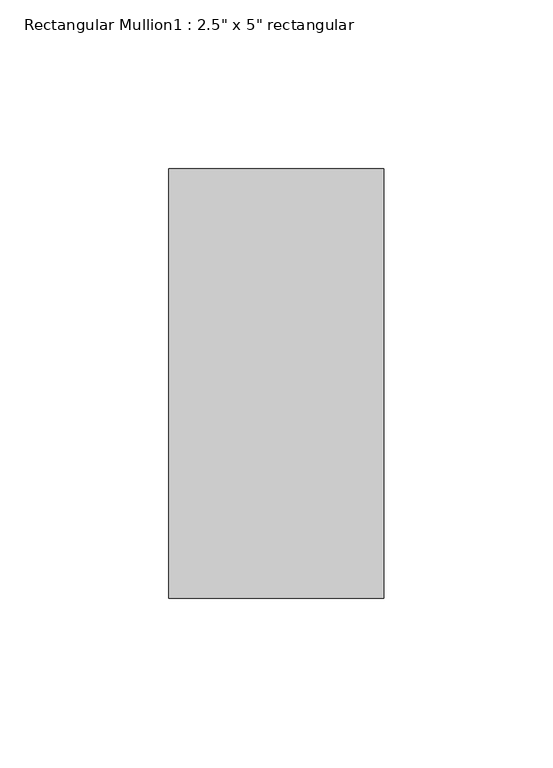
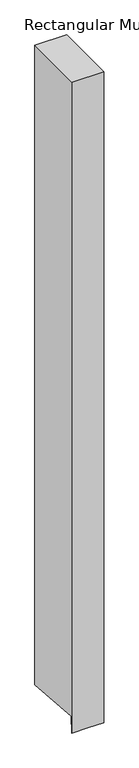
"""IFC4 building model written with IfcOpenShell, lengths in millimetres: member geometry."""

from ifc_helpers import new_model, si_unit, origin, place, context, project, spatial, faceted_brep, source, transform, mapped, element, save


def member_275a0903(model_context):
    return source(origin(), model_context, "Body", "Brep", [
        faceted_brep([(31.75, 63.5, 0.0), (-31.75, 63.5, 0.0), (-31.75, -63.5, 0.0), (31.75, -63.5, 0.0), (31.75, 63.5, -1344.0500431), (0.0, 63.5, -1344.0500431), (-31.75, 63.5, -1344.0500431), (-31.75, -60.9736199, -1334.8041085), (-31.75, -63.5, -1368.815562), (0.0, -63.5, -1368.815562), (31.75, -63.5, -1368.815562), (31.75, -60.9736199, -1334.8041085), (0.0, -60.9736199, -1334.8041085)], [[[0, 1, 2, 3]], [[1, 0, 4, 5, 6]], [[2, 1, 6, 7, 8]], [[3, 2, 8, 9, 10]], [[0, 3, 10, 11, 4]], [[4, 11, 12, 5]], [[11, 10, 9, 12]], [[9, 8, 7, 12]], [[7, 6, 5, 12]]]),
    ])


if __name__ == "__main__":
    model = new_model("IFC4")
    model_context = context("Model", 3, world=origin())
    ifc_project = project(units=[si_unit("LENGTHUNIT", "METRE", prefix="MILLI")], contexts=[model_context])
    site = spatial("IfcSite", under=ifc_project)
    building = spatial("IfcBuilding", under=site)
    placement = place(None, origin())
    member_shape = member_275a0903(model_context)
    element("IfcMember", 1, ObjectType="Rectangular Mullion1 : 2.5\" x 5\" rectangular", at=placement, inside=building, context=model_context, shape_type="MappedRepresentation", body=[
        mapped(member_shape, transform((0.0, 0.0, 0.0), x_axis=(1.0, 0.0, 0.0), y_axis=(0.0, 1.0, 0.0), z_axis=(0.0, 0.0, 1.0))),
    ])
    save(model, "model.ifc")
